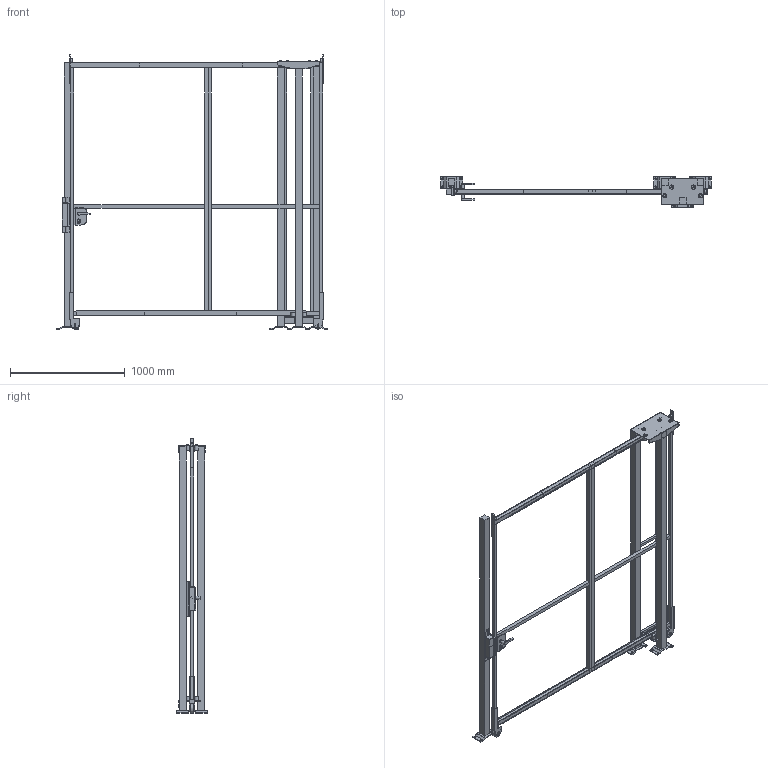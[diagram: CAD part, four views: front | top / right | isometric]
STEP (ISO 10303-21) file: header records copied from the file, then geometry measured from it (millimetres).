
FILE_DESCRIPTION(/* description */ (''),/* implementation_level */ '2;1');
FILE_NAME(/* name */ 'C:\SafeGuarding\ELABORATI\KLADKOUGAMMA_2025-03-21-09-26-23.stp',/* time_stamp */ '2025-03-21T09:26:24+01:00',/* author */ ('admin'),/* organization */ (''),/* preprocessor_version */ 'ST-DEVELOPER v18.1',/* originating_system */ 'AutoCAD Mechanical',/* authorisation */ '');
FILE_SCHEMA (('AUTOMOTIVE_DESIGN { 1 0 10303 214 3 1 1 }'));
Length unit declared in the file: millimetre
Products named in the file (5): Product; R_VFPA.REPE30.10002200; R_VFPA.REPE30.12002200; R_VFPA.REPE20.02502200; P_VFMA.V260SDU.2320
Assembly tree (7 placements, depth 2):
  Product
    R_VFPA.REPE30.10002200
    R_VFPA.REPE30.12002200
    P_VFMA.V260SDU.2320  x4
    R_VFPA.REPE20.02502200
Bounding box: 2361.92 x 264 x 2390.02 mm (x, y, z)
Volume: 53503157.4 mm3; surface area: 6936288.9 mm2
Topology: 67 solids, 67 shells, 602 faces, 1736 edges, 1704 vertices
Faces by surface type: plane 524, cylinder 74, bspline 4
Full cylindrical faces by diameter (mm): 9 x4, 11 x16, 13 x4, 18 x1, 25 x2, 25.398 x2, 30 x6, 36 x8, 80 x2
Entity records: 18009 total; most frequent: CARTESIAN_POINT 4682, DIRECTION 2656, ORIENTED_EDGE 2350, LINE 1216, VECTOR 1216, EDGE_CURVE 1175, VERTEX_POINT 790, AXIS2_PLACEMENT_3D 720
